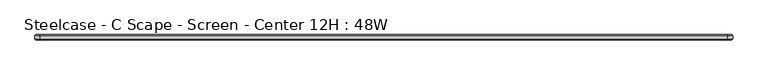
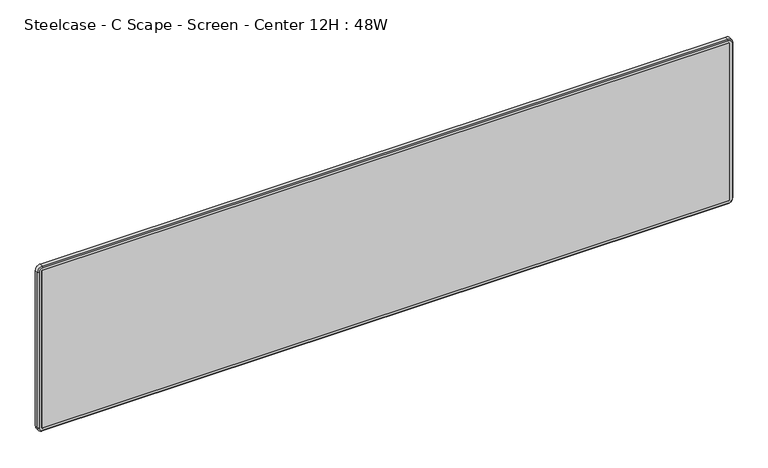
"""IFC4 building model written with IfcOpenShell, lengths in millimetres: furniture geometry, Steelcase - C Scape - Screen - Center 12H : 48W."""

from ifc_helpers import new_model, si_unit, frame, origin, place, context, project, spatial, polyline, circle_curve, outline, extrude, source, transform, mapped, element, save
from ifc_brep_helpers import plane_surface, cylinder_surface, revolved_surface, advanced_brep


def steelcase_c_scape_screen_center_12h_48w_11ab3818(model_context):
    return source(origin(), model_context, "Body", "SolidModel", [
        advanced_brep(
        [(6.3501994, -7.9375, 975.2694951), (8.21859, -7.9375, 977.1378857), (8.21859, -17.4625, 977.1378857), (6.3501994, -17.4625, 975.2694951), (0.0002237, -9.6896209, 975.2694951), (8.21859, -9.6896209, 983.4878614), (8.21859, -7.9375, 981.7357406), (1.7523445, -7.9375, 975.2694951), (0.0002237, -15.7098203, 975.2694951), (8.21859, -15.7098203, 983.4878614), (1.7529034, -17.4625, 975.2694951), (8.21859, -17.4625, 981.7351817), (6.3501994, -17.4625, 686.9063005), (6.3501994, -7.9375, 686.9063005), (1.7523445, -7.9375, 686.9063005), (0.0002237, -9.6896209, 686.9063005), (0.0002237, -15.7098203, 686.9063005), (1.7529034, -17.4625, 686.9063005), (8.21859, -7.9375, 685.0379099), (8.21859, -17.4625, 685.0379099), (8.21859, -9.6896209, 678.6879341), (8.21859, -7.9375, 680.440055), (8.21859, -15.7098203, 678.6879341), (8.21859, -17.4625, 680.4406139), (1207.806615, -17.4625, 685.0379099), (1207.806615, -7.9375, 685.0379099), (1207.806615, -7.9375, 680.440055), (1207.806615, -9.6896209, 678.6879341), (1207.806615, -15.7098203, 678.6879341), (1207.806615, -17.4625, 680.4406139), (1209.6750056, -7.9375, 686.9063005), (1209.6750056, -17.4625, 686.9063005), (1216.0249814, -9.6896209, 686.9063005), (1214.2728605, -7.9375, 686.9063005), (1216.0249814, -15.7098203, 686.9063005), (1214.2723017, -17.4625, 686.9063005), (1209.6750056, -17.4625, 975.2694951), (1209.6750056, -7.9375, 975.2694951), (1214.2728605, -7.9375, 975.2694951), (1216.0249814, -9.6896209, 975.2694951), (1216.0249814, -15.7098203, 975.2694951), (1214.2723017, -17.4625, 975.2694951), (1207.806615, -7.9375, 977.1378857), (1207.806615, -17.4625, 977.1378857), (1207.806615, -7.9375, 981.7357406), (1207.806615, -9.6896209, 983.4878614), (1207.806615, -15.7098203, 983.4878614), (1207.806615, -17.4625, 981.7351817)],
        [
            (0, 1, circle_curve(frame((8.21859, -7.9375, 975.2694951), z_axis=(0.0, 1.0, 0.0), x_axis=(0.0, 0.0, 1.0)), 1.8683906)),
            (1, 2),
            (2, 3, circle_curve(frame((8.21859, -17.4625, 975.2694951), z_axis=(0.0, -1.0, 0.0), x_axis=(0.0, 0.0, 1.0)), 1.8683906)),
            (3, 0),
            (4, 5, circle_curve(frame((8.21859, -9.6896209, 975.2694951), z_axis=(0.0, 1.0, 0.0), x_axis=(0.0, 0.0, 1.0)), 8.2183664)),
            (5, 6),
            (6, 7, circle_curve(frame((8.21859, -7.9375, 975.2694951), z_axis=(0.0, -1.0, 0.0), x_axis=(0.0, 0.0, 1.0)), 6.4662455)),
            (7, 4),
            (8, 9, circle_curve(frame((8.21859, -15.7098203, 975.2694951), z_axis=(0.0, 1.0, 0.0), x_axis=(0.0, 0.0, 1.0)), 8.2183664)),
            (9, 5),
            (4, 8),
            (10, 11, circle_curve(frame((8.21859, -17.4625, 975.2694951), z_axis=(0.0, 1.0, 0.0), x_axis=(0.0, 0.0, 1.0)), 6.4656866)),
            (11, 9),
            (8, 10),
            (3, 12),
            (12, 13),
            (13, 0),
            (7, 14),
            (14, 15),
            (15, 4),
            (15, 16),
            (16, 8),
            (16, 17),
            (17, 10),
            (18, 13, circle_curve(frame((8.21859, -7.9375, 686.9063005), z_axis=(0.0, 1.0, 0.0), x_axis=(-1.0, 0.0, 0.0)), 1.8683906)),
            (12, 19, circle_curve(frame((8.21859, -17.4625, 686.9063005), z_axis=(0.0, -1.0, 0.0), x_axis=(-1.0, 0.0, 0.0)), 1.8683906)),
            (19, 18),
            (20, 15, circle_curve(frame((8.21859, -9.6896209, 686.9063005), z_axis=(0.0, 1.0, 0.0), x_axis=(-1.0, 0.0, 0.0)), 8.2183664)),
            (14, 21, circle_curve(frame((8.21859, -7.9375, 686.9063005), z_axis=(0.0, -1.0, 0.0), x_axis=(-1.0, 0.0, 0.0)), 6.4662455)),
            (21, 20),
            (22, 16, circle_curve(frame((8.21859, -15.7098203, 686.9063005), z_axis=(0.0, 1.0, 0.0), x_axis=(-1.0, 0.0, 0.0)), 8.2183664)),
            (20, 22),
            (23, 17, circle_curve(frame((8.21859, -17.4625, 686.9063005), z_axis=(0.0, 1.0, 0.0), x_axis=(-1.0, 0.0, 0.0)), 6.4656866)),
            (22, 23),
            (19, 24),
            (24, 25),
            (25, 18),
            (21, 26),
            (26, 27),
            (27, 20),
            (27, 28),
            (28, 22),
            (28, 29),
            (29, 23),
            (30, 25, circle_curve(frame((1207.806615, -7.9375, 686.9063005), z_axis=(0.0, 1.0, 0.0), x_axis=(0.0, 0.0, -1.0)), 1.8683906)),
            (24, 31, circle_curve(frame((1207.806615, -17.4625, 686.9063005), z_axis=(0.0, -1.0, 0.0), x_axis=(0.0, 0.0, -1.0)), 1.8683906)),
            (31, 30),
            (32, 27, circle_curve(frame((1207.806615, -9.6896209, 686.9063005), z_axis=(0.0, 1.0, 0.0), x_axis=(0.0, 0.0, -1.0)), 8.2183664)),
            (26, 33, circle_curve(frame((1207.806615, -7.9375, 686.9063005), z_axis=(0.0, -1.0, 0.0), x_axis=(0.0, 0.0, -1.0)), 6.4662455)),
            (33, 32),
            (34, 28, circle_curve(frame((1207.806615, -15.7098203, 686.9063005), z_axis=(0.0, 1.0, 0.0), x_axis=(0.0, 0.0, -1.0)), 8.2183664)),
            (32, 34),
            (35, 29, circle_curve(frame((1207.806615, -17.4625, 686.9063005), z_axis=(0.0, 1.0, 0.0), x_axis=(0.0, 0.0, -1.0)), 6.4656866)),
            (34, 35),
            (31, 36),
            (36, 37),
            (37, 30),
            (33, 38),
            (38, 39),
            (39, 32),
            (39, 40),
            (40, 34),
            (40, 41),
            (41, 35),
            (42, 37, circle_curve(frame((1207.806615, -7.9375, 975.2694951), z_axis=(0.0, 1.0, 0.0), x_axis=(1.0, 0.0, 0.0)), 1.8683906)),
            (36, 43, circle_curve(frame((1207.806615, -17.4625, 975.2694951), z_axis=(0.0, -1.0, 0.0), x_axis=(1.0, 0.0, 0.0)), 1.8683906)),
            (43, 42),
            (44, 38, circle_curve(frame((1207.806615, -7.9375, 975.2694951), z_axis=(0.0, 1.0, 0.0), x_axis=(1.0, 0.0, 0.0)), 6.4662455)),
            (6, 44),
            (42, 1),
            (45, 39, circle_curve(frame((1207.806615, -9.6896209, 975.2694951), z_axis=(0.0, 1.0, 0.0), x_axis=(1.0, 0.0, 0.0)), 8.2183664)),
            (44, 45),
            (46, 40, circle_curve(frame((1207.806615, -15.7098203, 975.2694951), z_axis=(0.0, 1.0, 0.0), x_axis=(1.0, 0.0, 0.0)), 8.2183664)),
            (45, 46),
            (47, 41, circle_curve(frame((1207.806615, -17.4625, 975.2694951), z_axis=(0.0, 1.0, 0.0), x_axis=(1.0, 0.0, 0.0)), 6.4656866)),
            (46, 47),
            (47, 11),
            (2, 43),
            (5, 45),
            (9, 46),
        ],
        [
            revolved_surface(polyline([(8.21859, -17.4625, 977.1378857), (8.21859, -7.9375, 977.1378857)]), (8.21859, -7.9375, 975.2694951), (0.0, -1.0, 0.0)),
            revolved_surface(polyline([(8.21859, -7.9375, 981.7357406), (8.21859, -9.6896209, 983.4878614)]), (8.21859, -7.9375, 975.2694951), (0.0, -1.0, 0.0)),
            cylinder_surface(frame((8.21859, -7.9375, 975.2694951), z_axis=(0.0, -1.0, 0.0), x_axis=(0.0, 0.0, 1.0)), 8.2183664),
            revolved_surface(polyline([(8.21859, -15.7098203, 983.4878614), (8.21859, -17.4625, 981.7351817)]), (8.21859, -7.9375, 975.2694951), (0.0, -1.0, 0.0)),
            plane_surface(frame((6.3501994, -17.4625, 975.2694951), z_axis=(1.0, 0.0, 0.0), x_axis=(0.0, 0.0, -1.0))),
            plane_surface(frame((1.7523445, -7.9375, 975.2694951), z_axis=(-0.7071067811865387, 0.7071067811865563, 0.0), x_axis=(0.0, 0.0, -1.0))),
            plane_surface(frame((0.0002237, -9.6896209, 975.2694951), z_axis=(-1.0, 0.0, 0.0), x_axis=(0.0, 0.0, -1.0))),
            plane_surface(frame((0.0002237, -15.7098203, 975.2694951), z_axis=(-0.7071067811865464, -0.7071067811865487, 0.0), x_axis=(0.0, 0.0, -1.0))),
            revolved_surface(polyline([(6.350199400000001, -17.4625, 686.9063005), (6.350199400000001, -7.9375, 686.9063005)]), (8.21859, -7.9375, 686.9063005), (0.0, -1.0, 0.0)),
            revolved_surface(polyline([(1.7523445, -7.9375, 686.9063005), (0.0002237, -9.6896209, 686.9063005)]), (8.21859, -7.9375, 686.9063005), (0.0, -1.0, 0.0)),
            cylinder_surface(frame((8.21859, -7.9375, 686.9063005), z_axis=(0.0, -1.0, 0.0), x_axis=(-1.0, 0.0, 0.0)), 8.2183664),
            revolved_surface(polyline([(0.0002237, -15.7098203, 686.9063005), (1.7529034, -17.4625, 686.9063005)]), (8.21859, -7.9375, 686.9063005), (0.0, -1.0, 0.0)),
            plane_surface(frame((8.21859, -17.4625, 685.0379099), z_axis=(0.0, 0.0, 1.0), x_axis=(1.0, 0.0, 0.0))),
            plane_surface(frame((8.21859, -7.9375, 680.440055), z_axis=(0.0, 0.7071067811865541, -0.7071067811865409), x_axis=(1.0, 0.0, 0.0))),
            plane_surface(frame((8.21859, -9.6896209, 678.6879341), z_axis=(0.0, 0.0, -1.0), x_axis=(1.0, 0.0, 0.0))),
            plane_surface(frame((8.21859, -15.7098203, 678.6879341), z_axis=(0.0, -0.7071067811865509, -0.7071067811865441), x_axis=(1.0, 0.0, 0.0))),
            revolved_surface(polyline([(1207.806615, -17.4625, 685.0379099), (1207.806615, -7.9375, 685.0379099)]), (1207.806615, -7.9375, 686.9063005), (0.0, -1.0, 0.0)),
            revolved_surface(polyline([(1207.806615, -7.9375, 680.440055), (1207.806615, -9.6896209, 678.6879341)]), (1207.806615, -7.9375, 686.9063005), (0.0, -1.0, 0.0)),
            cylinder_surface(frame((1207.806615, -7.9375, 686.9063005), z_axis=(0.0, -1.0, 0.0), x_axis=(0.0, 0.0, -1.0)), 8.2183664),
            revolved_surface(polyline([(1207.806615, -15.7098203, 678.6879341), (1207.806615, -17.4625, 680.4406139)]), (1207.806615, -7.9375, 686.9063005), (0.0, -1.0, 0.0)),
            plane_surface(frame((1209.6750056, -17.4625, 686.9063005), z_axis=(-1.0, 0.0, 0.0), x_axis=(0.0, 0.0, 1.0))),
            plane_surface(frame((1214.2728605, -7.9375, 686.9063005), z_axis=(0.7071067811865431, 0.7071067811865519, 0.0), x_axis=(0.0, 0.0, 1.0))),
            plane_surface(frame((1216.0249814, -9.6896209, 686.9063005), z_axis=(1.0, 0.0, 0.0), x_axis=(0.0, 0.0, 1.0))),
            plane_surface(frame((1216.0249814, -15.7098203, 686.9063005), z_axis=(0.7071067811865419, -0.7071067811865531, 0.0), x_axis=(0.0, 0.0, 1.0))),
            revolved_surface(polyline([(1209.6750056, -17.4625, 975.2694951), (1209.6750056, -7.9375, 975.2694951)]), (1207.806615, -7.9375, 975.2694951), (0.0, -1.0, 0.0)),
            plane_surface(frame((1207.806615, -7.9375, 975.2694951), z_axis=(0.0, 1.0, 0.0), x_axis=(1.0, 0.0, 0.0))),
            revolved_surface(polyline([(1214.2728605, -7.9375, 975.2694951), (1216.0249814, -9.6896209, 975.2694951)]), (1207.806615, -7.9375, 975.2694951), (0.0, -1.0, 0.0)),
            cylinder_surface(frame((1207.806615, -7.9375, 975.2694951), z_axis=(0.0, -1.0, 0.0), x_axis=(1.0, 0.0, 0.0)), 8.2183664),
            revolved_surface(polyline([(1216.0249814, -15.7098203, 975.2694951), (1214.2723017, -17.4625, 975.2694951)]), (1207.806615, -7.9375, 975.2694951), (0.0, -1.0, 0.0)),
            plane_surface(frame((1207.806615, -17.4625, 975.2694951), z_axis=(0.0, -1.0, 0.0), x_axis=(1.0, 0.0, 0.0))),
            plane_surface(frame((1207.806615, -17.4625, 977.1378857), z_axis=(0.0, 0.0, -1.0), x_axis=(-1.0, 0.0, 0.0))),
            plane_surface(frame((1207.806615, -7.9375, 981.7357406), z_axis=(0.0, 0.7071067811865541, 0.7071067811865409), x_axis=(-1.0, 0.0, 0.0))),
            plane_surface(frame((1207.806615, -9.6896209, 983.4878614), z_axis=(0.0, 0.0, 1.0), x_axis=(-1.0, 0.0, 0.0))),
            plane_surface(frame((1207.806615, -15.7098203, 983.4878614), z_axis=(0.0, -0.7071067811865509, 0.7071067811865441), x_axis=(-1.0, 0.0, 0.0))),
        ],
        [
            (0, [[1, 2, 3, 4]]),
            (1, [[5, 6, 7, 8]]),
            (2, [[9, 10, -5, 11]]),
            (3, [[12, 13, -9, 14]]),
            (4, [[-4, 15, 16, 17]]),
            (5, [[-8, 18, 19, 20]]),
            (6, [[-11, -20, 21, 22]]),
            (7, [[-14, -22, 23, 24]]),
            (8, [[25, -16, 26, 27]]),
            (9, [[28, -19, 29, 30]]),
            (10, [[31, -21, -28, 32]]),
            (11, [[33, -23, -31, 34]]),
            (12, [[-27, 35, 36, 37]]),
            (13, [[-30, 38, 39, 40]]),
            (14, [[-32, -40, 41, 42]]),
            (15, [[-34, -42, 43, 44]]),
            (16, [[45, -36, 46, 47]]),
            (17, [[48, -39, 49, 50]]),
            (18, [[51, -41, -48, 52]]),
            (19, [[53, -43, -51, 54]]),
            (20, [[-47, 55, 56, 57]]),
            (21, [[-50, 58, 59, 60]]),
            (22, [[-52, -60, 61, 62]]),
            (23, [[-54, -62, 63, 64]]),
            (24, [[65, -56, 66, 67]]),
            (25, [[68, -58, -49, -38, -29, -18, -7, 69], [-37, -45, -57, -65, 70, -1, -17, -25]]),
            (26, [[71, -59, -68, 72]]),
            (27, [[73, -61, -71, 74]]),
            (28, [[75, -63, -73, 76]]),
            (29, [[-44, -53, -64, -75, 77, -12, -24, -33], [-66, -55, -46, -35, -26, -15, -3, 78]]),
            (30, [[-67, -78, -2, -70]]),
            (31, [[-72, -69, -6, 79]]),
            (32, [[-74, -79, -10, 80]]),
            (33, [[-76, -80, -13, -77]]),
        ],
    ),
        extrude(outline(polyline([(1209.6750056, -7.9375), (1209.6750056, -17.4625), (6.3501994, -17.4625), (6.3501994, -7.9375), (1209.6750056, -7.9375)])), frame((0.0, 0.0, 685.0379099), z_axis=(0.0, 0.0, 1.0), x_axis=(1.0, 0.0, 0.0)), (0.0, 0.0, 1.0), 292.0999758),
    ])


if __name__ == "__main__":
    model = new_model("IFC4")
    model_context = context("Model", 3, world=origin())
    ifc_project = project(units=[si_unit("LENGTHUNIT", "METRE", prefix="MILLI")], contexts=[model_context])
    site = spatial("IfcSite", under=ifc_project)
    building = spatial("IfcBuilding", under=site)
    placement = place(None, origin())
    steelcase_c_scape_screen_center_12h_48w_shape = steelcase_c_scape_screen_center_12h_48w_11ab3818(model_context)
    element("IfcFurniture", 1, ObjectType="Steelcase - C Scape - Screen - Center 12H : 48W", at=placement, inside=building, context=model_context, shape_type="MappedRepresentation", body=[
        mapped(steelcase_c_scape_screen_center_12h_48w_shape, transform((0.0, 0.0, 0.0), x_axis=(1.0, 0.0, 0.0), y_axis=(0.0, 1.0, 0.0), z_axis=(0.0, 0.0, 1.0))),
    ])
    save(model, "model.ifc")
